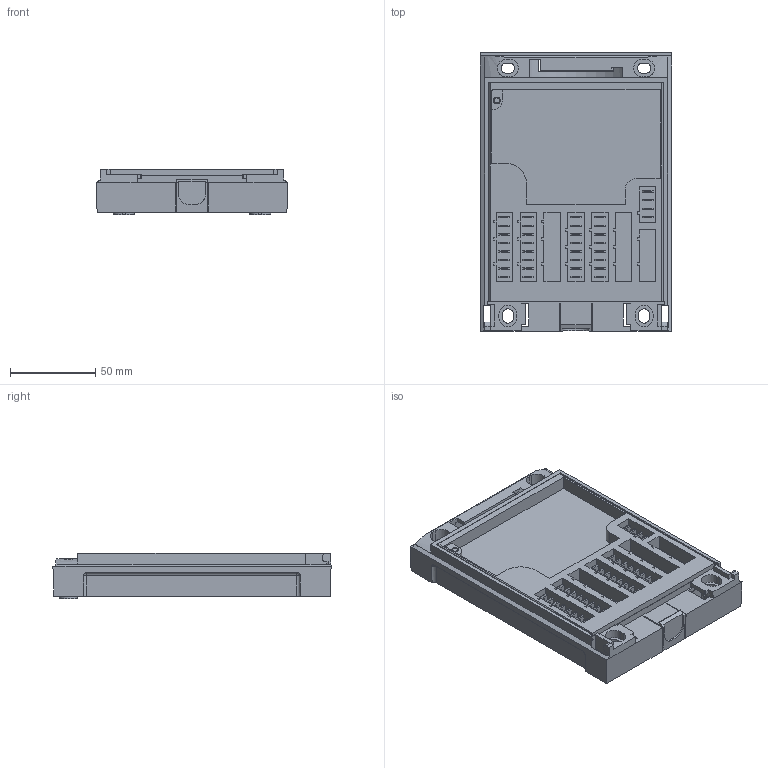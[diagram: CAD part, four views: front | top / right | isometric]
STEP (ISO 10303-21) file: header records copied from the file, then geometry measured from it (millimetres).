
FILE_DESCRIPTION( ( 'STEP AP203' ), ' ' );
FILE_NAME( 'p:/temp/worker_64/3936_3580/app_40_02016010810020136652023192d056f_000000_00_00_000000/format_2/CR0411.stp', '2016-01-08T09:02:05', ( '' ), ( '' ), ' ', 'PARTsolutions', ' ' );
FILE_SCHEMA( ( 'CONFIG_CONTROL_DESIGN' ) );
Length unit declared in the file: millimetre
Products named in the file (1): _CR0411
Bounding box: 112 x 162.8 x 26.6 mm (x, y, z)
Volume: 310677 mm3; surface area: 80190.6 mm2
Topology: 1 solids, 1 shells, 770 faces, 2038 edges, 1318 vertices
Faces by surface type: plane 647, cylinder 118, sphere 5
Full cylindrical faces by diameter (mm): 1.65 x36, 3 x1, 4 x1
Entity records: 23289 total; most frequent: CARTESIAN_POINT 4197, ORIENTED_EDGE 3928, DIRECTION 3749, EDGE_CURVE 1964, LINE 1701, VECTOR 1701, VERTEX_POINT 1282, AXIS2_PLACEMENT_3D 1024
